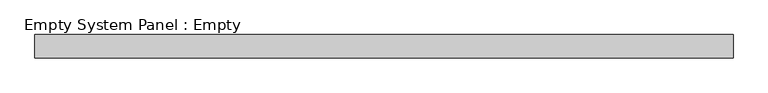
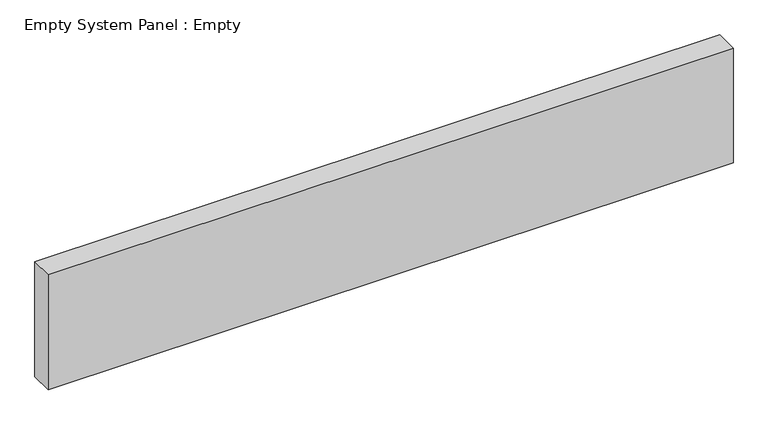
"""IFC4 building model written with IfcOpenShell, lengths in millimetres: plate geometry, Empty System Panel : Empty."""

import ifcopenshell
import ifcopenshell.guid

model = None  # the IFC model being written
_history = None  # IfcOwnerHistory: only IFC2X3 demands one
_inside = {}  # id of a spatial element -> (the spatial element, [elements in it])
_under = {}  # id of a project, library or spatial element -> (it, [spatial elements below it])
_declared = {}  # id of a project -> (the project, [libraries it declares])
_typed = {}  # id of a type object -> (the type object, [elements of that type])
_made_of = {}  # id of a material, layer set ... -> (it, [elements and type objects made of it])


def new_model(schema):
    """Start an empty IFC model of exactly this schema.

    Asked for "IFC4X3", IfcOpenShell would pick the latest addendum, in which some entities
    have other attributes; the version numbers below select the first issue.
    IFC2X3 requires an IfcOwnerHistory on every rooted entity: one is made here for all.
    """
    global model, _history
    if schema == "IFC4X3":
        model = ifcopenshell.file(schema_version=(4, 3, 0, 0))
    else:
        model = ifcopenshell.file(schema=schema)
    _inside.clear()
    _under.clear()
    _declared.clear()
    _typed.clear()
    _made_of.clear()
    _history = None
    if model.schema == "IFC2X3":
        org = make("IfcOrganization", Name="unknown")
        user = make(
            "IfcPersonAndOrganization",
            ThePerson=make("IfcPerson", FamilyName="unknown"),
            TheOrganization=org,
        )
        app = make(
            "IfcApplication",
            ApplicationDeveloper=org,
            Version="unknown",
            ApplicationFullName="unknown",
            ApplicationIdentifier="unknown",
        )
        _history = make(
            "IfcOwnerHistory",
            OwningUser=user,
            OwningApplication=app,
            ChangeAction="ADDED",
            CreationDate=0,
        )
    return model


def make(cls, **values):
    """One entity of the class cls with the attributes given. An attribute that is None is left unset."""
    return model.create_entity(
        cls, **{name: value for name, value in values.items() if value is not None}
    )


def rooted(cls, **values):
    """An entity with a GlobalId (a new one), such as an element, a storey or a relation."""
    return make(cls, GlobalId=ifcopenshell.guid.new(), OwnerHistory=_history, **values)


def si_unit(unit_type, name, prefix=None):
    """IfcSIUnit, for example si_unit("LENGTHUNIT", "METRE", prefix="MILLI")."""
    return make("IfcSIUnit", UnitType=unit_type, Prefix=prefix, Name=name)


def assignment(units):
    """IfcUnitAssignment: the units of a project."""
    return None if units is None else make("IfcUnitAssignment", Units=units)


def point(xyz):
    """IfcCartesianPoint."""
    return None if xyz is None else make("IfcCartesianPoint", Coordinates=xyz)


def direction(xyz):
    """IfcDirection."""
    return None if xyz is None else make("IfcDirection", DirectionRatios=xyz)


def frame(location, z_axis=None, x_axis=None):
    """IfcAxis2Placement3D, a coordinate frame: its origin and axes. An axis left out is left unset."""
    return make(
        "IfcAxis2Placement3D",
        Location=point(location),
        Axis=direction(z_axis),
        RefDirection=direction(x_axis),
    )


def origin():
    """The frame at (0, 0, 0) with its axes left unset."""
    return frame((0.0, 0.0, 0.0))


def origin_with_axes():
    """The frame at (0, 0, 0) with the z axis (0, 0, 1) and the x axis (1, 0, 0) written out."""
    return frame((0.0, 0.0, 0.0), z_axis=(0.0, 0.0, 1.0), x_axis=(1.0, 0.0, 0.0))


def place(relative_to, where):
    """IfcLocalPlacement: puts the frame where relative to a parent placement (None: the world)."""
    return make(
        "IfcLocalPlacement", PlacementRelTo=relative_to, RelativePlacement=where
    )


def context(
    kind, dimensions, precision=None, world=None, true_north=None, identifier=None
):
    """IfcGeometricRepresentationContext, for example the 3D "Model" context."""
    return make(
        "IfcGeometricRepresentationContext",
        ContextIdentifier=identifier,
        ContextType=kind,
        CoordinateSpaceDimension=dimensions,
        Precision=precision,
        WorldCoordinateSystem=world,
        TrueNorth=true_north,
    )


def project(units=None, contexts=None):
    """IfcProject with its units and contexts."""
    return rooted(
        "IfcProject",
        Name="project",
        RepresentationContexts=contexts,
        UnitsInContext=assignment(units),
    )


def spatial(cls, under=None, at=None, **own):
    """A site, building, storey or space (cls), placed at a placement, below another one or the project."""
    s = rooted(cls, ObjectPlacement=at, **own)
    if under is not None:
        _under.setdefault(under.id(), (under, []))[1].append(s)
    return s


def polyline(points):
    """IfcPolyline through the points."""
    return make("IfcPolyline", Points=[point(p) for p in points])


def outline(outer, holes=None, kind="AREA"):
    """IfcArbitraryClosedProfileDef: a profile drawn as a closed curve; with holes, ...WithVoids."""
    if holes is None:
        return make("IfcArbitraryClosedProfileDef", ProfileType=kind, OuterCurve=outer)
    return make(
        "IfcArbitraryProfileDefWithVoids",
        ProfileType=kind,
        OuterCurve=outer,
        InnerCurves=holes,
    )


def extrude(swept, where, along, depth):
    """IfcExtrudedAreaSolid: the profile swept, set in the frame where, extruded along a direction by depth."""
    return make(
        "IfcExtrudedAreaSolid",
        SweptArea=swept,
        Position=where,
        ExtrudedDirection=direction(along),
        Depth=depth,
    )


def shape(context_of_items, identifier, shape_type, items):
    """IfcShapeRepresentation: the items that make up one representation, for example the "Body"."""
    return make(
        "IfcShapeRepresentation",
        ContextOfItems=context_of_items,
        RepresentationIdentifier=identifier,
        RepresentationType=shape_type,
        Items=items,
    )


def source(mapping_origin, context_of_items, identifier, shape_type, items):
    """IfcRepresentationMap: a shape defined once, which mapped items show again and again."""
    return make(
        "IfcRepresentationMap",
        MappingOrigin=mapping_origin,
        MappedRepresentation=shape(context_of_items, identifier, shape_type, items),
    )


def transform(
    local_origin,
    x_axis=None,
    y_axis=None,
    z_axis=None,
    scale=None,
    scale2=None,
    scale3=None,
    uniform=True,
):
    """IfcCartesianTransformationOperator3D, or its non-uniform kind. x_axis, y_axis, z_axis: its Axis1, 2, 3."""
    if uniform:
        return make(
            "IfcCartesianTransformationOperator3D",
            Axis1=direction(x_axis),
            Axis2=direction(y_axis),
            LocalOrigin=point(local_origin),
            Scale=scale,
            Axis3=direction(z_axis),
        )
    return make(
        "IfcCartesianTransformationOperator3DnonUniform",
        Axis1=direction(x_axis),
        Axis2=direction(y_axis),
        LocalOrigin=point(local_origin),
        Scale=scale,
        Axis3=direction(z_axis),
        Scale2=scale2,
        Scale3=scale3,
    )


def mapped(mapping_source, mapping_target):
    """IfcMappedItem: shows the shape of a source again, moved by a transform."""
    return make(
        "IfcMappedItem", MappingSource=mapping_source, MappingTarget=mapping_target
    )


def made_of(thing, what):
    """Note that an element or type object is made of a material, layer set ...; save() writes the relation."""
    if what is not None:
        _made_of.setdefault(what.id(), (what, []))[1].append(thing)
    return thing


def element(
    cls,
    number,
    at=None,
    inside=None,
    cuts=None,
    type_object=None,
    material=None,
    context=None,
    identifier="Body",
    shape_type=None,
    held_by="IfcProductDefinitionShape",
    body=None,
    shapes=None,
    **own,
):
    """One element of the class cls, such as IfcWall. Its Tag is "e" and its number.

    at: its placement. inside: the storey or other place that contains it. cuts: it is an
    opening in that element (IfcRelVoidsElement). A single representation is given by context,
    identifier, shape_type and body (its items); several are given by shapes. held_by: the class
    of the entity that holds the representations. save() writes the other relations.
    """
    e = rooted(cls, Tag="e%d" % number, ObjectPlacement=at, **own)
    if body is not None:
        shapes = [shape(context, identifier, shape_type, body)]
    if shapes is not None:
        e.Representation = make(held_by, Representations=shapes)
    if inside is not None:
        _inside.setdefault(inside.id(), (inside, []))[1].append(e)
    if cuts is not None:
        rooted(
            "IfcRelVoidsElement", RelatingBuildingElement=cuts, RelatedOpeningElement=e
        )
    if type_object is not None:
        _typed.setdefault(type_object.id(), (type_object, []))[1].append(e)
    return made_of(e, material)


def aggregate(whole, parts):
    """IfcRelAggregates: a whole, such as a stair, and the parts it consists of."""
    return rooted("IfcRelAggregates", RelatingObject=whole, RelatedObjects=parts)


def save(model, path):
    """Write the relations noted so far, then the file.

    IfcRelAggregates (storeys below a building ...), IfcRelContainedInSpatialStructure (elements
    in a storey), IfcRelDefinesByType, IfcRelAssociatesMaterial and IfcRelDeclares: one each for
    every whole, place, type object, material and project.
    """
    for whole, parts in _under.values():
        aggregate(whole, parts)
    for where, things in _inside.values():
        rooted(
            "IfcRelContainedInSpatialStructure",
            RelatedElements=things,
            RelatingStructure=where,
        )
    for kind, things in _typed.values():
        rooted("IfcRelDefinesByType", RelatedObjects=things, RelatingType=kind)
    for what, things in _made_of.values():
        rooted("IfcRelAssociatesMaterial", RelatedObjects=things, RelatingMaterial=what)
    for by, libraries in _declared.values():
        rooted("IfcRelDeclares", RelatingContext=by, RelatedDefinitions=libraries)
    model.write(path)


def empty_system_panel_empty_3d88d0b6(model_context):
    return source(origin(), model_context, "Body", "SweptSolid", [
        extrude(outline(polyline([(1500.0, -50.0), (-1500.0, -50.0), (-1500.0, 50.0), (1500.0, 50.0), (1500.0, -50.0)])), origin_with_axes(), (0.0, 0.0, 1.0), 532.0),
    ])


if __name__ == "__main__":
    model = new_model("IFC4")
    model_context = context("Model", 3, world=origin())
    ifc_project = project(units=[si_unit("LENGTHUNIT", "METRE", prefix="MILLI")], contexts=[model_context])
    site = spatial("IfcSite", under=ifc_project)
    building = spatial("IfcBuilding", under=site)
    placement = place(None, origin())
    empty_system_panel_empty_shape = empty_system_panel_empty_3d88d0b6(model_context)
    element("IfcPlate", 1, ObjectType="Empty System Panel : Empty", at=placement, inside=building, context=model_context, shape_type="MappedRepresentation", body=[
        mapped(empty_system_panel_empty_shape, transform((0.0, 0.0, 0.0), x_axis=(1.0, 0.0, 0.0), y_axis=(0.0, 1.0, 0.0), z_axis=(0.0, 0.0, 1.0))),
    ])
    save(model, "model.ifc")
